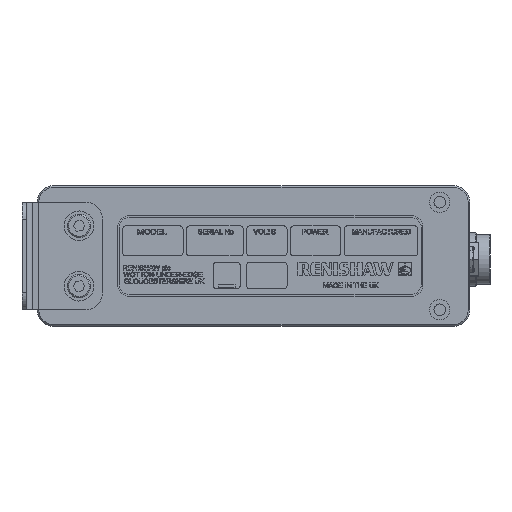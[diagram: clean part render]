
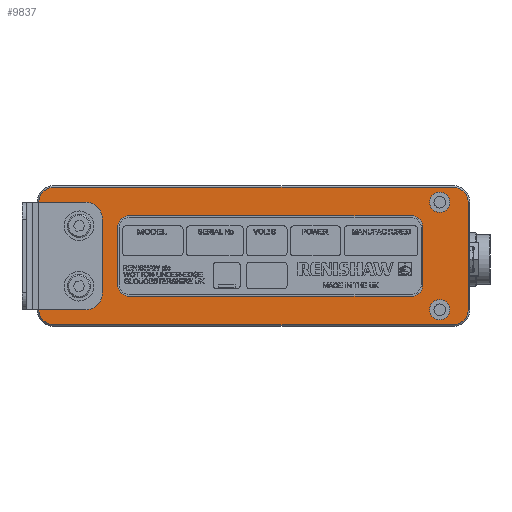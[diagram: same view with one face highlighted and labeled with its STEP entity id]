
A CAD part, left-side view. The second image highlights one B-rep face of the part: STEP entity #9837.
In plain terms, the highlighted planar face has unit normal (-1, 0, 0).
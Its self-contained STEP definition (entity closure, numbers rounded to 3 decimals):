
#9837=ADVANCED_FACE('',(#26512,#26513,#26514,#26515),#13394,.T.);
#13394=PLANE('',#73656);
#15975=LINE('',#93399,#21100);
#15976=LINE('',#93403,#21101);
#15977=LINE('',#93407,#21102);
#15978=LINE('',#93411,#21103);
#15979=LINE('',#93415,#21104);
#15980=LINE('',#93419,#21105);
#15981=LINE('',#93423,#21106);
#15982=LINE('',#93427,#21107);
#15983=LINE('',#93431,#21108);
#15984=LINE('',#93435,#21109);
#21100=VECTOR('',#78389,1.);
#21101=VECTOR('',#78392,1.);
#21102=VECTOR('',#78395,1.);
#21103=VECTOR('',#78398,1.);
#21104=VECTOR('',#78401,1.);
#21105=VECTOR('',#78404,1.);
#21106=VECTOR('',#78407,1.);
#21107=VECTOR('',#78410,1.);
#21108=VECTOR('',#78413,1.);
#21109=VECTOR('',#78416,1.);
#26512=FACE_BOUND('',#27755,.T.);
#26513=FACE_BOUND('',#27756,.T.);
#26514=FACE_BOUND('',#27757,.T.);
#26515=FACE_BOUND('',#27758,.T.);
#27755=EDGE_LOOP('',(#32753));
#27756=EDGE_LOOP('',(#32754));
#27757=EDGE_LOOP('',(#32755,#32756,#32757,#32758,#32759,#32760,#32761,#32762));
#27758=EDGE_LOOP('',(#32763,#32764,#32765,#32766,#32767,#32768,#32769,#32770,
#32771,#32772,#32773,#32774));
#32753=ORIENTED_EDGE('',*,*,#62150,.T.);
#32754=ORIENTED_EDGE('',*,*,#62151,.T.);
#32755=ORIENTED_EDGE('',*,*,#62152,.T.);
#32756=ORIENTED_EDGE('',*,*,#62153,.T.);
#32757=ORIENTED_EDGE('',*,*,#62154,.T.);
#32758=ORIENTED_EDGE('',*,*,#62155,.F.);
#32759=ORIENTED_EDGE('',*,*,#62156,.T.);
#32760=ORIENTED_EDGE('',*,*,#62157,.F.);
#32761=ORIENTED_EDGE('',*,*,#62158,.T.);
#32762=ORIENTED_EDGE('',*,*,#62159,.T.);
#32763=ORIENTED_EDGE('',*,*,#62160,.T.);
#32764=ORIENTED_EDGE('',*,*,#62161,.T.);
#32765=ORIENTED_EDGE('',*,*,#62162,.T.);
#32766=ORIENTED_EDGE('',*,*,#62163,.T.);
#32767=ORIENTED_EDGE('',*,*,#62164,.T.);
#32768=ORIENTED_EDGE('',*,*,#62165,.F.);
#32769=ORIENTED_EDGE('',*,*,#62166,.T.);
#32770=ORIENTED_EDGE('',*,*,#62167,.T.);
#32771=ORIENTED_EDGE('',*,*,#62168,.T.);
#32772=ORIENTED_EDGE('',*,*,#62169,.T.);
#32773=ORIENTED_EDGE('',*,*,#62170,.T.);
#32774=ORIENTED_EDGE('',*,*,#62171,.T.);
#54023=VERTEX_POINT('',#93393);
#54024=VERTEX_POINT('',#93395);
#54025=VERTEX_POINT('',#93397);
#54026=VERTEX_POINT('',#93398);
#54027=VERTEX_POINT('',#93400);
#54028=VERTEX_POINT('',#93402);
#54029=VERTEX_POINT('',#93404);
#54030=VERTEX_POINT('',#93406);
#54031=VERTEX_POINT('',#93408);
#54032=VERTEX_POINT('',#93410);
#54033=VERTEX_POINT('',#93413);
#54034=VERTEX_POINT('',#93414);
#54035=VERTEX_POINT('',#93416);
#54036=VERTEX_POINT('',#93418);
#54037=VERTEX_POINT('',#93420);
#54038=VERTEX_POINT('',#93422);
#54039=VERTEX_POINT('',#93424);
#54040=VERTEX_POINT('',#93426);
#54041=VERTEX_POINT('',#93428);
#54042=VERTEX_POINT('',#93430);
#54043=VERTEX_POINT('',#93432);
#54044=VERTEX_POINT('',#93434);
#62150=EDGE_CURVE('',#54023,#54023,#72472,.T.);
#62151=EDGE_CURVE('',#54024,#54024,#72473,.T.);
#62152=EDGE_CURVE('',#54025,#54026,#72474,.T.);
#62153=EDGE_CURVE('',#54026,#54027,#15975,.T.);
#62154=EDGE_CURVE('',#54027,#54028,#72475,.T.);
#62155=EDGE_CURVE('',#54029,#54028,#15976,.T.);
#62156=EDGE_CURVE('',#54029,#54030,#72476,.T.);
#62157=EDGE_CURVE('',#54031,#54030,#15977,.T.);
#62158=EDGE_CURVE('',#54031,#54032,#72477,.T.);
#62159=EDGE_CURVE('',#54032,#54025,#15978,.T.);
#62160=EDGE_CURVE('',#54033,#54034,#72478,.T.);
#62161=EDGE_CURVE('',#54034,#54035,#15979,.T.);
#62162=EDGE_CURVE('',#54035,#54036,#72479,.T.);
#62163=EDGE_CURVE('',#54036,#54037,#15980,.T.);
#62164=EDGE_CURVE('',#54037,#54038,#72480,.T.);
#62165=EDGE_CURVE('',#54039,#54038,#15981,.T.);
#62166=EDGE_CURVE('',#54039,#54040,#72481,.T.);
#62167=EDGE_CURVE('',#54040,#54041,#15982,.T.);
#62168=EDGE_CURVE('',#54041,#54042,#72482,.T.);
#62169=EDGE_CURVE('',#54042,#54043,#15983,.T.);
#62170=EDGE_CURVE('',#54043,#54044,#72483,.T.);
#62171=EDGE_CURVE('',#54044,#54033,#15984,.T.);
#72472=CIRCLE('',#73644,3.);
#72473=CIRCLE('',#73645,3.);
#72474=CIRCLE('',#73646,3.5);
#72475=CIRCLE('',#73647,3.5);
#72476=CIRCLE('',#73648,3.5);
#72477=CIRCLE('',#73649,3.5);
#72478=CIRCLE('',#73650,4.5);
#72479=CIRCLE('',#73651,5.);
#72480=CIRCLE('',#73652,5.);
#72481=CIRCLE('',#73653,4.5);
#72482=CIRCLE('',#73654,4.5);
#72483=CIRCLE('',#73655,4.5);
#73644=AXIS2_PLACEMENT_3D('',#93392,#78383,#78384);
#73645=AXIS2_PLACEMENT_3D('',#93394,#78385,#78386);
#73646=AXIS2_PLACEMENT_3D('',#93396,#78387,#78388);
#73647=AXIS2_PLACEMENT_3D('',#93401,#78390,#78391);
#73648=AXIS2_PLACEMENT_3D('',#93405,#78393,#78394);
#73649=AXIS2_PLACEMENT_3D('',#93409,#78396,#78397);
#73650=AXIS2_PLACEMENT_3D('',#93412,#78399,#78400);
#73651=AXIS2_PLACEMENT_3D('',#93417,#78402,#78403);
#73652=AXIS2_PLACEMENT_3D('',#93421,#78405,#78406);
#73653=AXIS2_PLACEMENT_3D('',#93425,#78408,#78409);
#73654=AXIS2_PLACEMENT_3D('',#93429,#78411,#78412);
#73655=AXIS2_PLACEMENT_3D('',#93433,#78414,#78415);
#73656=AXIS2_PLACEMENT_3D('',#93436,#78417,#78418);
#78383=DIRECTION('',(1.,0.,0.));
#78384=DIRECTION('',(0.,-1.,0.));
#78385=DIRECTION('',(1.,0.,0.));
#78386=DIRECTION('',(0.,-1.,0.));
#78387=DIRECTION('',(1.,0.,0.));
#78388=DIRECTION('',(0.,-1.,0.));
#78389=DIRECTION('',(0.,0.,1.));
#78390=DIRECTION('',(1.,0.,0.));
#78391=DIRECTION('',(0.,-1.,0.));
#78392=DIRECTION('',(0.,1.,0.));
#78393=DIRECTION('',(1.,0.,0.));
#78394=DIRECTION('',(0.,-1.,0.));
#78395=DIRECTION('',(0.,0.,1.));
#78396=DIRECTION('',(1.,0.,0.));
#78397=DIRECTION('',(0.,-1.,0.));
#78398=DIRECTION('',(0.,1.,0.));
#78399=DIRECTION('',(-1.,0.,0.));
#78400=DIRECTION('',(0.,1.,0.));
#78401=DIRECTION('',(0.,-1.,0.));
#78402=DIRECTION('',(1.,0.,0.));
#78403=DIRECTION('',(0.,1.,0.));
#78404=DIRECTION('',(0.,0.,-1.));
#78405=DIRECTION('',(1.,0.,0.));
#78406=DIRECTION('',(0.,1.,0.));
#78407=DIRECTION('',(0.,-1.,0.));
#78408=DIRECTION('',(-1.,0.,0.));
#78409=DIRECTION('',(0.,1.,0.));
#78410=DIRECTION('',(0.,-1.,0.));
#78411=DIRECTION('',(-1.,0.,0.));
#78412=DIRECTION('',(0.,1.,0.));
#78413=DIRECTION('',(0.,0.,1.));
#78414=DIRECTION('',(-1.,0.,0.));
#78415=DIRECTION('',(0.,1.,0.));
#78416=DIRECTION('',(0.,1.,0.));
#78417=DIRECTION('',(-1.,0.,0.));
#78418=DIRECTION('',(0.,1.,0.));
#93392=CARTESIAN_POINT('',(58.844,16.233,91.668));
#93393=CARTESIAN_POINT('',(58.844,13.233,91.668));
#93394=CARTESIAN_POINT('',(58.844,16.233,123.668));
#93395=CARTESIAN_POINT('',(58.844,13.233,123.668));
#93396=CARTESIAN_POINT('',(58.844,108.733,99.168));
#93397=CARTESIAN_POINT('',(58.844,108.733,95.668));
#93398=CARTESIAN_POINT('',(58.844,112.233,99.168));
#93399=CARTESIAN_POINT('',(58.844,112.233,99.168));
#93400=CARTESIAN_POINT('',(58.844,112.233,116.168));
#93401=CARTESIAN_POINT('',(58.844,108.733,116.168));
#93402=CARTESIAN_POINT('',(58.844,108.733,119.668));
#93403=CARTESIAN_POINT('',(58.844,24.733,119.668));
#93404=CARTESIAN_POINT('',(58.844,24.733,119.668));
#93405=CARTESIAN_POINT('',(58.844,24.733,116.168));
#93406=CARTESIAN_POINT('',(58.844,21.233,116.168));
#93407=CARTESIAN_POINT('',(58.844,21.233,99.168));
#93408=CARTESIAN_POINT('',(58.844,21.233,99.168));
#93409=CARTESIAN_POINT('',(58.844,24.733,99.168));
#93410=CARTESIAN_POINT('',(58.844,24.733,95.668));
#93411=CARTESIAN_POINT('',(58.844,24.733,95.668));
#93412=CARTESIAN_POINT('',(58.844,131.233,123.668));
#93413=CARTESIAN_POINT('',(58.844,131.233,128.168));
#93414=CARTESIAN_POINT('',(58.844,135.733,123.668));
#93415=CARTESIAN_POINT('',(58.844,137.733,123.668));
#93416=CARTESIAN_POINT('',(58.844,121.733,123.668));
#93417=CARTESIAN_POINT('',(58.844,121.733,118.668));
#93418=CARTESIAN_POINT('',(58.844,116.733,118.668));
#93419=CARTESIAN_POINT('',(58.844,116.733,123.668));
#93420=CARTESIAN_POINT('',(58.844,116.733,96.668));
#93421=CARTESIAN_POINT('',(58.844,121.733,96.668));
#93422=CARTESIAN_POINT('',(58.844,121.733,91.668));
#93423=CARTESIAN_POINT('',(58.844,137.733,91.668));
#93424=CARTESIAN_POINT('',(58.844,135.733,91.668));
#93425=CARTESIAN_POINT('',(58.844,131.233,91.668));
#93426=CARTESIAN_POINT('',(58.844,131.233,87.168));
#93427=CARTESIAN_POINT('',(58.844,71.733,87.168));
#93428=CARTESIAN_POINT('',(58.844,12.233,87.168));
#93429=CARTESIAN_POINT('',(58.844,12.233,91.668));
#93430=CARTESIAN_POINT('',(58.844,7.733,91.668));
#93431=CARTESIAN_POINT('',(58.844,7.733,107.668));
#93432=CARTESIAN_POINT('',(58.844,7.733,123.668));
#93433=CARTESIAN_POINT('',(58.844,12.233,123.668));
#93434=CARTESIAN_POINT('',(58.844,12.233,128.168));
#93435=CARTESIAN_POINT('',(58.844,71.733,128.168));
#93436=CARTESIAN_POINT('',(58.844,71.733,107.668));
